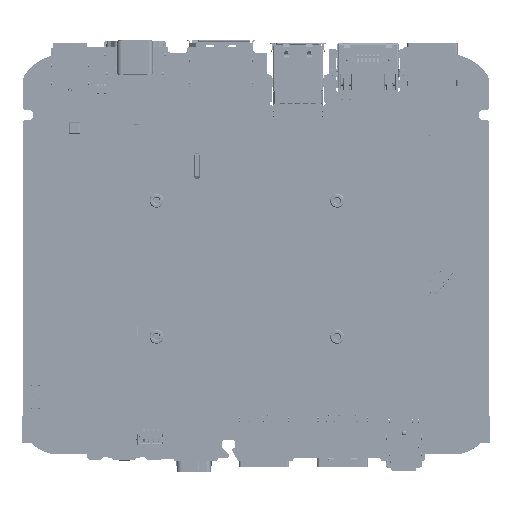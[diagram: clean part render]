
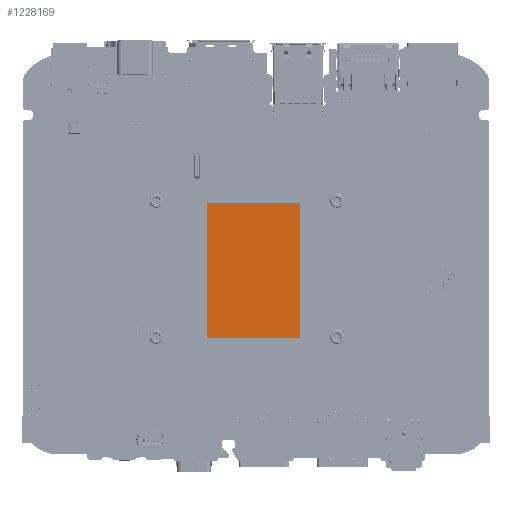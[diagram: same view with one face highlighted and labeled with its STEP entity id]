
A CAD part, top view. The second image highlights one B-rep face of the part: STEP entity #1228169.
In plain terms, the highlighted planar face has unit normal (0, 0, 1).
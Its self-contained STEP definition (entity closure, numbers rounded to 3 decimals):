
#1228054=DIRECTION('',(1.,0.,0.));
#1228055=VECTOR('',#1228054,35.1);
#1228056=CARTESIAN_POINT('',(-17.55,-12.05,1.495));
#1228057=LINE('',#1228056,#1228055);
#1228058=DIRECTION('',(0.,-1.,0.));
#1228059=VECTOR('',#1228058,24.1);
#1228060=CARTESIAN_POINT('',(-17.55,12.05,1.495));
#1228061=LINE('',#1228060,#1228059);
#1228062=DIRECTION('',(-1.,0.,0.));
#1228063=VECTOR('',#1228062,35.1);
#1228064=CARTESIAN_POINT('',(17.55,12.05,1.495));
#1228065=LINE('',#1228064,#1228063);
#1228066=DIRECTION('',(0.,1.,0.));
#1228067=VECTOR('',#1228066,24.1);
#1228068=CARTESIAN_POINT('',(17.55,-12.05,1.495));
#1228069=LINE('',#1228068,#1228067);
#1228078=CARTESIAN_POINT('',(-17.55,-12.05,1.495));
#1228079=CARTESIAN_POINT('',(17.55,-12.05,1.495));
#1228080=VERTEX_POINT('',#1228078);
#1228081=VERTEX_POINT('',#1228079);
#1228082=CARTESIAN_POINT('',(17.55,12.05,1.495));
#1228083=VERTEX_POINT('',#1228082);
#1228084=CARTESIAN_POINT('',(-17.55,12.05,1.495));
#1228085=VERTEX_POINT('',#1228084);
#1228158=CARTESIAN_POINT('',(0.,0.,1.495));
#1228159=DIRECTION('',(0.,0.,1.));
#1228160=DIRECTION('',(1.,0.,0.));
#1228161=AXIS2_PLACEMENT_3D('',#1228158,#1228159,#1228160);
#1228162=PLANE('',#1228161);
#1228163=ORIENTED_EDGE('',*,*,#1228110,.F.);
#1228164=ORIENTED_EDGE('',*,*,#1228125,.F.);
#1228165=ORIENTED_EDGE('',*,*,#1228139,.F.);
#1228166=ORIENTED_EDGE('',*,*,#1228152,.F.);
#1228167=EDGE_LOOP('',(#1228163,#1228164,#1228165,#1228166));
#1228168=FACE_OUTER_BOUND('',#1228167,.F.);
#1228110=EDGE_CURVE('',#1228080,#1228081,#1228057,.T.);
#1228125=EDGE_CURVE('',#1228085,#1228080,#1228061,.T.);
#1228139=EDGE_CURVE('',#1228083,#1228085,#1228065,.T.);
#1228152=EDGE_CURVE('',#1228081,#1228083,#1228069,.T.);
#1228169=ADVANCED_FACE('',(#1228168),#1228162,.T.);
